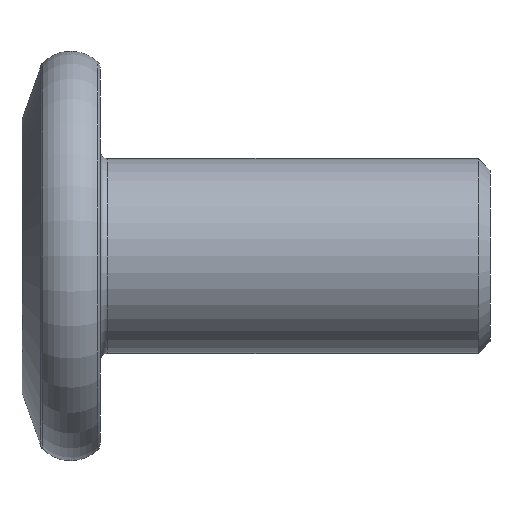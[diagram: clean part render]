
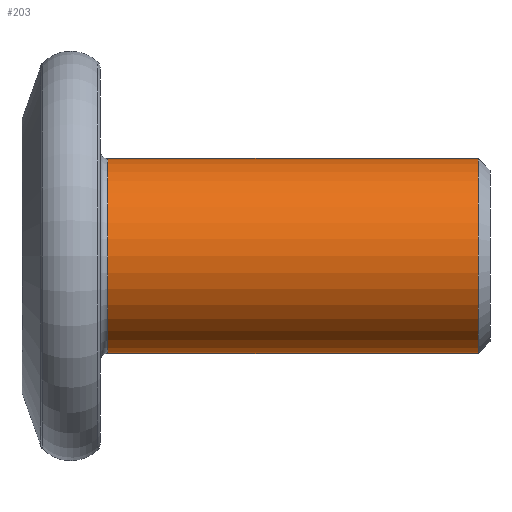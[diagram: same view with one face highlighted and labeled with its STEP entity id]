
A CAD part, front view. The second image highlights one B-rep face of the part: STEP entity #203.
In plain terms, the highlighted cylindrical face has radius 2.5 mm (diameter 5 mm), a partial arc.
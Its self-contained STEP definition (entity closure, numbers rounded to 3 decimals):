
#2 = ORIENTED_EDGE ( 'NONE', *, *, #491, .T. ) ;
#76 = AXIS2_PLACEMENT_3D ( 'NONE', #434, #570, #566 ) ;
#78 = EDGE_CURVE ( 'NONE', #551, #603, #107, .T. ) ;
#79 = CIRCLE ( 'NONE', #163, 2.5 ) ;
#107 = LINE ( 'NONE', #547, #357 ) ;
#125 = EDGE_CURVE ( 'NONE', #551, #280, #400, .T. ) ;
#163 = AXIS2_PLACEMENT_3D ( 'NONE', #505, #555, #704 ) ;
#203 = ADVANCED_FACE ( 'NONE', ( #619 ), #701, .T. ) ;
#271 = EDGE_LOOP ( 'NONE', ( #598, #470, #2, #522 ) ) ;
#280 = VERTEX_POINT ( 'NONE', #282 ) ;
#282 = CARTESIAN_POINT ( 'NONE',  ( 2.2, 0., -2.5 ) ) ;
#315 = VERTEX_POINT ( 'NONE', #475 ) ;
#357 = VECTOR ( 'NONE', #745, 1000. ) ;
#400 = CIRCLE ( 'NONE', #507, 2.5 ) ;
#414 = CARTESIAN_POINT ( 'NONE',  ( 0., 0., -2.5 ) ) ;
#424 = CARTESIAN_POINT ( 'NONE',  ( 2.2, 0., 2.5 ) ) ;
#434 = CARTESIAN_POINT ( 'NONE',  ( 0., 0., 0. ) ) ;
#443 = DIRECTION ( 'NONE',  ( 1., 0., 0. ) ) ;
#470 = ORIENTED_EDGE ( 'NONE', *, *, #125, .T. ) ;
#475 = CARTESIAN_POINT ( 'NONE',  ( 11.7, 0., -2.5 ) ) ;
#491 = EDGE_CURVE ( 'NONE', #280, #315, #605, .T. ) ;
#505 = CARTESIAN_POINT ( 'NONE',  ( 11.7, 0., 0. ) ) ;
#507 = AXIS2_PLACEMENT_3D ( 'NONE', #818, #443, #521 ) ;
#521 = DIRECTION ( 'NONE',  ( 0., 0., -1. ) ) ;
#522 = ORIENTED_EDGE ( 'NONE', *, *, #686, .T. ) ;
#547 = CARTESIAN_POINT ( 'NONE',  ( 0., 0., 2.5 ) ) ;
#551 = VERTEX_POINT ( 'NONE', #424 ) ;
#555 = DIRECTION ( 'NONE',  ( -1., 0., 0. ) ) ;
#566 = DIRECTION ( 'NONE',  ( 0., 0., -1. ) ) ;
#570 = DIRECTION ( 'NONE',  ( 1., 0., 0. ) ) ;
#598 = ORIENTED_EDGE ( 'NONE', *, *, #78, .F. ) ;
#603 = VERTEX_POINT ( 'NONE', #700 ) ;
#605 = LINE ( 'NONE', #414, #711 ) ;
#607 = DIRECTION ( 'NONE',  ( 1., 0., 0. ) ) ;
#619 = FACE_OUTER_BOUND ( 'NONE', #271, .T. ) ;
#686 = EDGE_CURVE ( 'NONE', #315, #603, #79, .T. ) ;
#700 = CARTESIAN_POINT ( 'NONE',  ( 11.7, 0., 2.5 ) ) ;
#701 = CYLINDRICAL_SURFACE ( 'NONE', #76, 2.5 ) ;
#704 = DIRECTION ( 'NONE',  ( 0., 0., -1. ) ) ;
#711 = VECTOR ( 'NONE', #607, 1000. ) ;
#745 = DIRECTION ( 'NONE',  ( 1., 0., 0. ) ) ;
#818 = CARTESIAN_POINT ( 'NONE',  ( 2.2, 0., 0. ) ) ;
